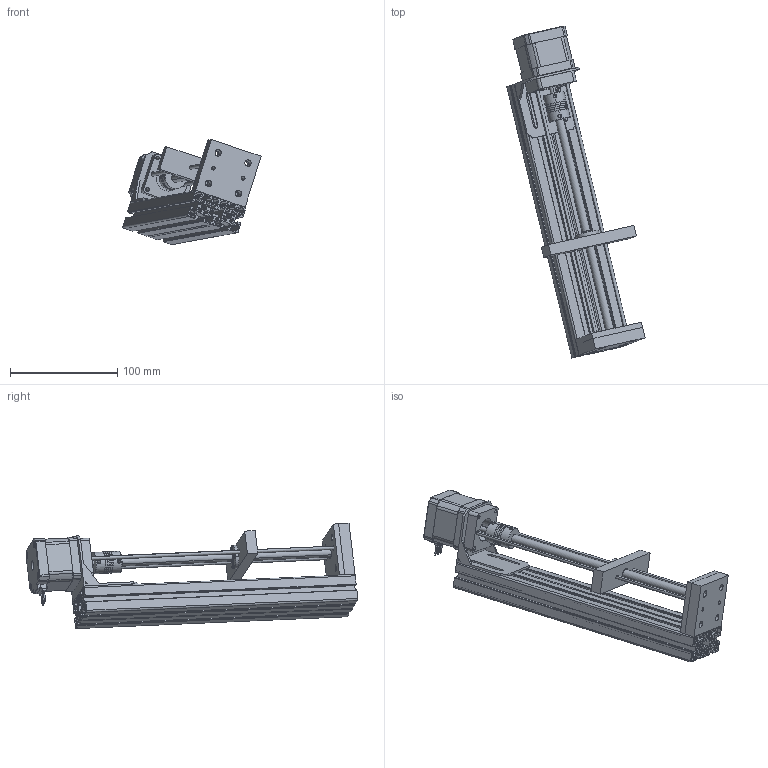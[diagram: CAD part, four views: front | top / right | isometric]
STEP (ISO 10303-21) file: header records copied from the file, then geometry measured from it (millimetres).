
FILE_DESCRIPTION (( 'STEP AP214' ), '1' );
FILE_NAME ('Mecanismo tuerca-tornillo.STEP', '2019-05-12T01:52:27', ( '' ), ( '' ), 'SwSTEP 2.0', 'SolidWorks 2018', '' );
FILE_SCHEMA (( 'AUTOMOTIVE_DESIGN' ));
Length unit declared in the file: millimetre
Products named in the file (13): Mecanismo tuerca-tornillo; Porta balero; Perfil extruido doble_End Finishing_Non-Machined End Finish Options_Type_Single_; Deslizador prismatico; Acople de motor_Predeterminado; Balero SFK 608; Motor de pasos_Varsayilan; Base de motor; Soporte de guia; Soporte de guia superior; Tuerca trapezoidal; Guia; Tornillo sin fin
Assembly tree (13 placements, depth 2):
  Mecanismo tuerca-tornillo
    Balero SFK 608
    Base de motor
    Motor de pasos_Varsayilan
    Acople de motor_Predeterminado
    Tornillo sin fin
    Soporte de guia
    Guia  x2
    Perfil extruido doble_End Finishing_Non-Machined End Finish Options_Type_Single_
    Porta balero
    Tuerca trapezoidal
    Deslizador prismatico
    Soporte de guia superior
Bounding box: 128.83 x 309.44 x 98.06 mm (x, y, z)
Volume: 285390 mm3; surface area: 269122.5 mm2
Topology: 35 solids, 35 shells, 1714 faces, 4644 edges, 2960 vertices
Faces by surface type: plane 724, cylinder 506, sphere 170, cone 132, torus 112, bspline 70
Entity records: 79777 total; most frequent: CARTESIAN_POINT 25908, ORIENTED_EDGE 9128, DIRECTION 8674, EDGE_CURVE 4564, AXIS2_PLACEMENT_3D 3178, VERTEX_POINT 2932, LINE 2318, VECTOR 2318
